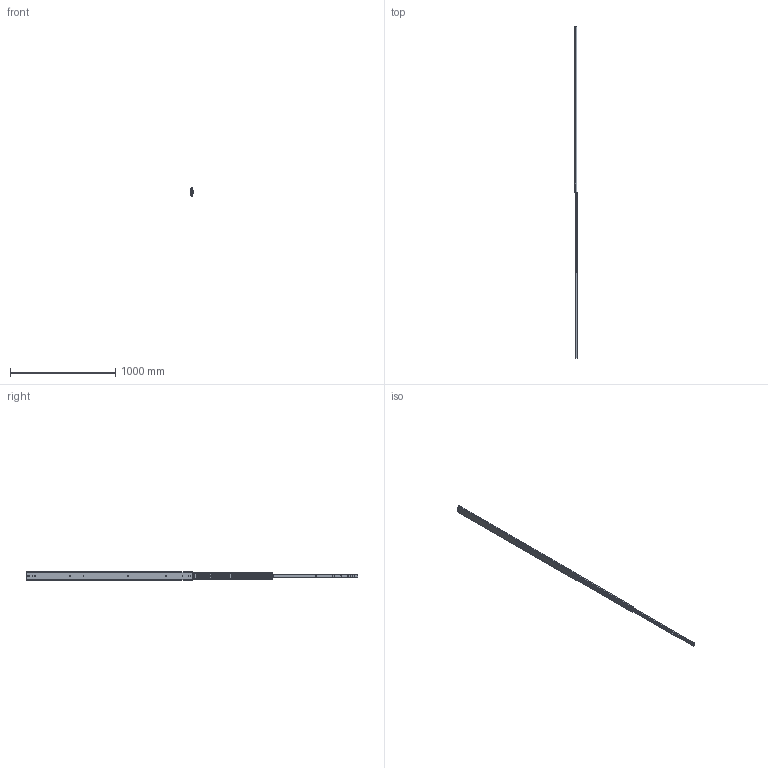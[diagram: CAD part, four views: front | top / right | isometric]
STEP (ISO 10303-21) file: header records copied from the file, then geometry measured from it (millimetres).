
FILE_DESCRIPTION(/* description */ ('Unknown'),/* implementation_level */ '2;1');
FILE_NAME(/* name */ '76J01-62 open',/* time_stamp */ '2024-07-30T14:11:07+08:00',/* author */ ('Unknown'),/* organization */ ('Unknown'),/* preprocessor_version */ 'ST-DEVELOPER v18.104',/* originating_system */ 'Solid Edge',/* authorisation */ 'Unknown');
FILE_SCHEMA (('AUTOMOTIVE_DESIGN {1 0 10303 214 3 1 1}'));
Length unit declared in the file: millimetre
Products named in the file (4): 76J01-62 open; 76J01 62 inch 內_0i; 76J01 62 吋中_; 76J01 62 嬪
Assembly tree (3 placements, depth 2):
  76J01-62 open
    76J01 62 inch 內_0i
    76J01 62 吋中_
    76J01 62 嬪
Bounding box: 19.3 x 3148.9 x 76.72 mm (x, y, z)
Volume: 1245980.2 mm3; surface area: 774331.5 mm2
Topology: 3 solids, 3 shells, 196 faces, 606 edges, 410 vertices
Faces by surface type: plane 104, cylinder 92
Full cylindrical faces by diameter (mm): 5.2 x16, 7.1 x2
Entity records: 7179 total; most frequent: CARTESIAN_POINT 1168, DIRECTION 1152, ORIENTED_EDGE 1140, EDGE_CURVE 570, VERTEX_POINT 392, LINE 384, VECTOR 384, AXIS2_PLACEMENT_3D 384
